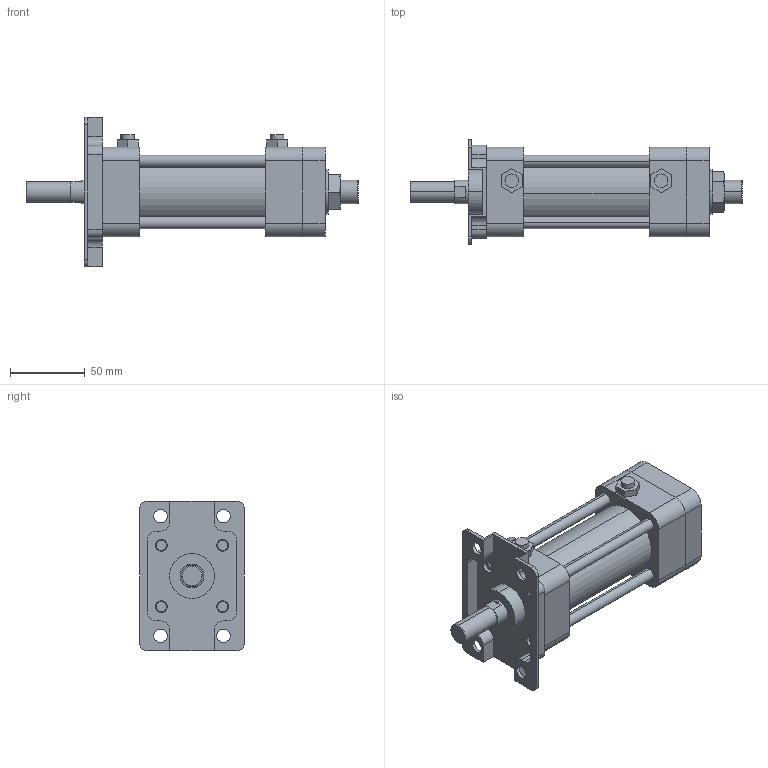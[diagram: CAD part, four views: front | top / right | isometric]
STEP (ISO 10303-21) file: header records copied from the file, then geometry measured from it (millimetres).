
FILE_DESCRIPTION (( 'STEP AP203' ), '1' );
FILE_NAME ('KGA2-40#-50-A.STEP', '2016-04-14T07:11:29', ( '' ), ( '' ), 'SwSTEP 2.0', 'SolidWorks 2014', '' );
FILE_SCHEMA (( 'CONFIG_CONTROL_DESIGN' ));
Length unit declared in the file: millimetre
Products named in the file (8): KGA2-40-After; KG2-40-After; K-40-AB; KGA2-40#-50-A; KGLH2-40-50
Assembly tree (17 placements, depth 2):
  KGA2-40#-50-A
    KG2-40-After
    KGLH2-40-50
    (unnamed)
    (unnamed)  x4
    (unnamed)  x8
    K-40-AB
    KGA2-40-After
Bounding box: 222 x 70 x 100 mm (x, y, z)
Volume: 378113.9 mm3; surface area: 115072.4 mm2
Topology: 17 solids, 22 shells, 436 faces, 1049 edges, 675 vertices
Faces by surface type: plane 186, cylinder 184, torus 38, cone 28
Entity records: 11941 total; most frequent: CARTESIAN_POINT 2321, DIRECTION 1849, ORIENTED_EDGE 1718, EDGE_CURVE 859, AXIS2_PLACEMENT_3D 686, VERTEX_POINT 565, LINE 477, VECTOR 477
